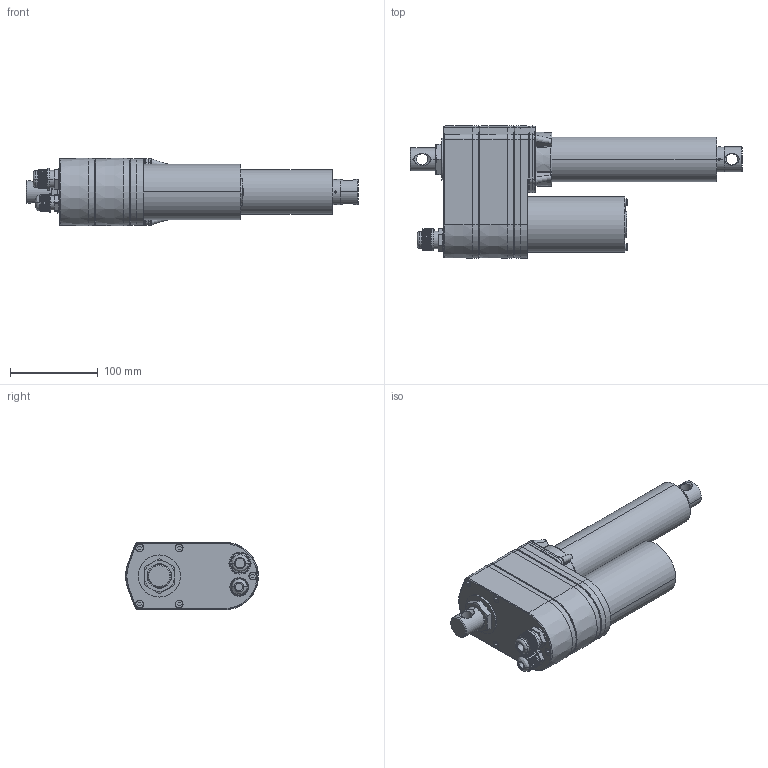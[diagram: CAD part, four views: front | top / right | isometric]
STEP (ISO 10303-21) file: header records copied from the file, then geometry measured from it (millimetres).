
FILE_DESCRIPTION((''),' ');
FILE_NAME('DSZY2-A-153-POT_2011-12-01.stp',' ',('Lindner'),('MSW Motion Control GmbH'),' ','ACIS 14.0',' ');
FILE_SCHEMA(('automotive_design'));
Length unit declared in the file: inch
Products named in the file (22): DSZY2_AL04_ASM|Next assembly relationship#01_ASM|Next assembly relationship#19;19; DSZY2_AL04_ASM|Next assembly relationship#01_ASM|Next assembly relationship#20;20; DSZY2_AL04_ASM|Next assembly relationship#01_ASM|Next assembly relationship#21;21; DSZY2_AL04_ASM|Next assembly relationship#01_ASM|Next assembly relationship#48;48; DSZY2_AL04_ASM|Next assembly relationship#02-1_ASM|Next assembly relationship#85;85; DSZY2_AL04_ASM|Next assembly relationship#02-1_ASM|Next assembly relationship#91;91; DSZY2_AL04_ASM|Next assembly relationship#02-1_ASM|Next assembly relationship#87;87; DSZY2_AL04_ASM|Next assembly relationship#02-1_ASM|Next assembly relationship#89;89; DSZY2_AL04_ASM|Next assembly relationship#02-1_ASM|Next assembly relationship#86_BODY_M12;86_BODY_M12; DSZY2_AL04_ASM|Next assembly relationship#02-1_ASM|Next assembly relationship#86_BODY_M16;86_BODY_M16; DSZY2_AL04_ASM|Next assembly relationship#04_154_ASM|Next assembly relationship#03_AM_ASM|Next assembly relationship#4_AM;4_AM; DSZY2_AL04_ASM|Next assembly relationship#04_154_ASM|Next assembly relationship#03_AM_ASM|Next assembly relationship#6;6; DSZY2_AL04_ASM|Next assembly relationship#04_154_ASM|Next assembly relationship#7_154;7_154; DSZY2_AL04_ASM|Next assembly relationship#04_154_ASM|Next assembly relationship#8;8; DSZY2_AL04_ASM|Next assembly relationship#49;49; DSZY2_AL04_ASM|Next assembly relationship#48;48; DSZY2_AL04_ASM|Next assembly relationship#44;44; DSZY2_AL04_ASM|Next assembly relationship#42_A;42_A
Bounding box: 378.7 x 151.65 x 77.15 mm (x, y, z)
Volume: 906401 mm3; surface area: 325960.9 mm2
Topology: 22 solids, 22 shells, 1190 faces, 3027 edges, 1920 vertices
Faces by surface type: plane 545, cylinder 321, cone 151, bspline 94, torus 69, sphere 10
Entity records: 51183 total; most frequent: CARTESIAN_POINT 12688, ORIENTED_EDGE 6054, DIRECTION 5828, EDGE_CURVE 3027, AXIS2_PLACEMENT_3D 2182, VERTEX_POINT 1920, LINE 1464, VECTOR 1464
